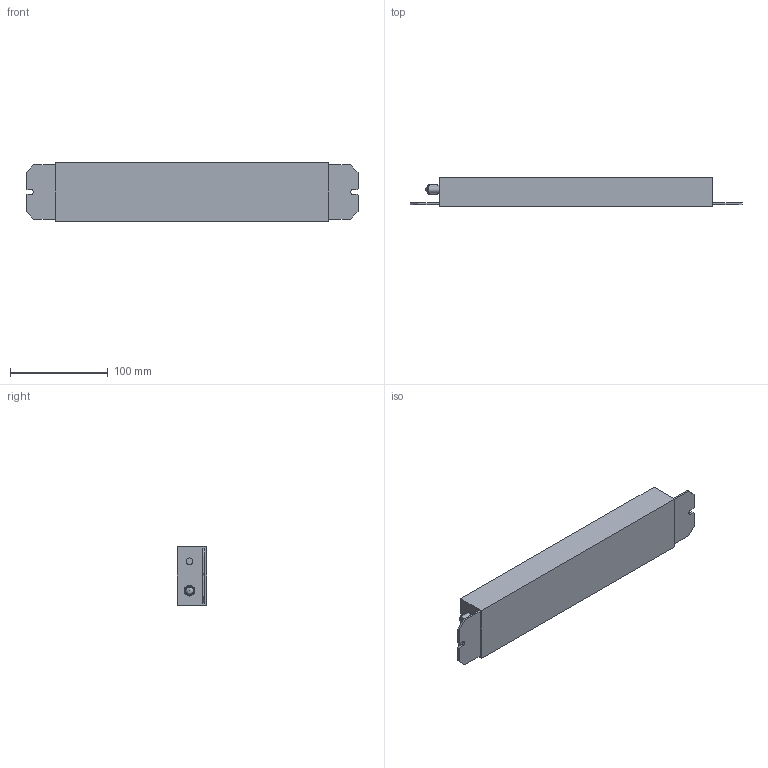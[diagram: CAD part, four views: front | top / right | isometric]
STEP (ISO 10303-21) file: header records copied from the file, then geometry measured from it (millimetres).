
FILE_DESCRIPTION(/* description */ (''),/* implementation_level */ '2;1');
FILE_NAME(/* name */ 'E:\Работа\Веда МК (Данфосс)\!Текущие задачи\2024.08.30 3D модели дросселей\Тормозные резисторы\STP\E54-1.stp',/* time_stamp */ '2024-09-04T07:24:17+04:00',/* author */ ('Александр (огранич)'),/* organization */ (''),/* preprocessor_version */ 'ST-DEVELOPER v18.1',/* originating_system */ 'Autodesk Inventor 2021',/* authorisation */ '');
FILE_SCHEMA (('AUTOMOTIVE_DESIGN { 1 0 10303 214 3 1 1 }'));
Length unit declared in the file: millimetre
Products named in the file (1): E54-1
Bounding box: 340 x 30 x 60 mm (x, y, z)
Volume: 511787.8 mm3; surface area: 61221.2 mm2
Topology: 1 solids, 1 shells, 51 faces, 132 edges, 86 vertices
Faces by surface type: plane 44, cylinder 4, cone 2, bspline 1
Full cylindrical faces by diameter (mm): 6.928 x1, 10 x1
Entity records: 1608 total; most frequent: CARTESIAN_POINT 331, ORIENTED_EDGE 262, DIRECTION 245, EDGE_CURVE 131, LINE 101, VECTOR 101, VERTEX_POINT 86, AXIS2_PLACEMENT_3D 72
